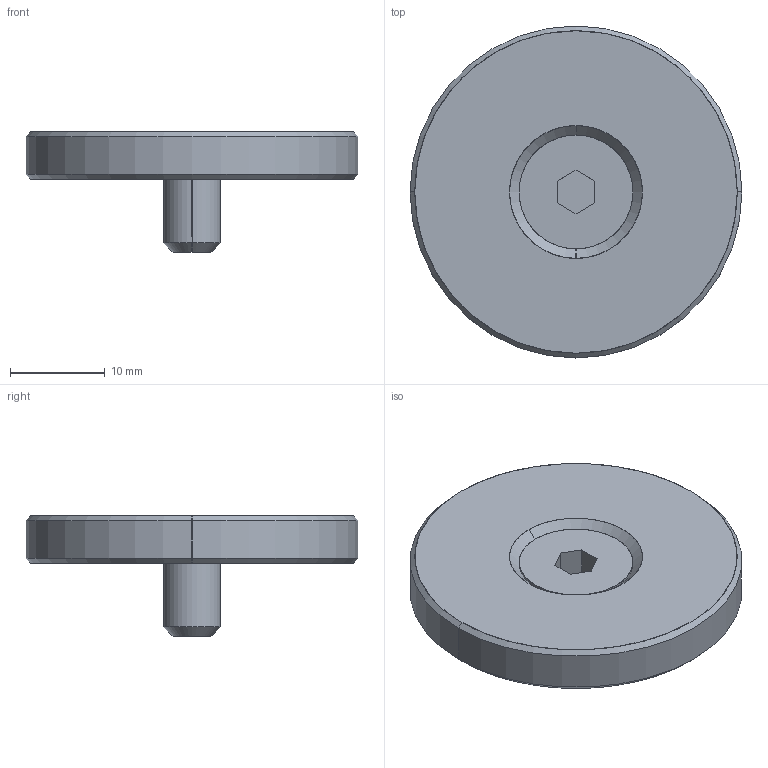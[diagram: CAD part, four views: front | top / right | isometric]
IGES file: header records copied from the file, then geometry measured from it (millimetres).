
Start section: SolidWorks IGES file using analytic representation for surfaces
Global section: file name: X:\11_SW2020-Inv2020\00_全2021-11新製品まで\b\BJ763-06003\bj763-06003.IGS; native system: SolidWorks 2020; preprocessor: SolidWorks 2020; author: ImaoCorp; date: 211025.091826; units: millimetre
Bounding box: 35 x 35 x 12.7 mm (x, y, z)
Surface area: 2656.1 mm2 (no closed solid volume)
Topology: 0 solids, 0 shells, 29 faces, 364 edges, 364 vertices
Faces by surface type: revolution 18, bspline 11
